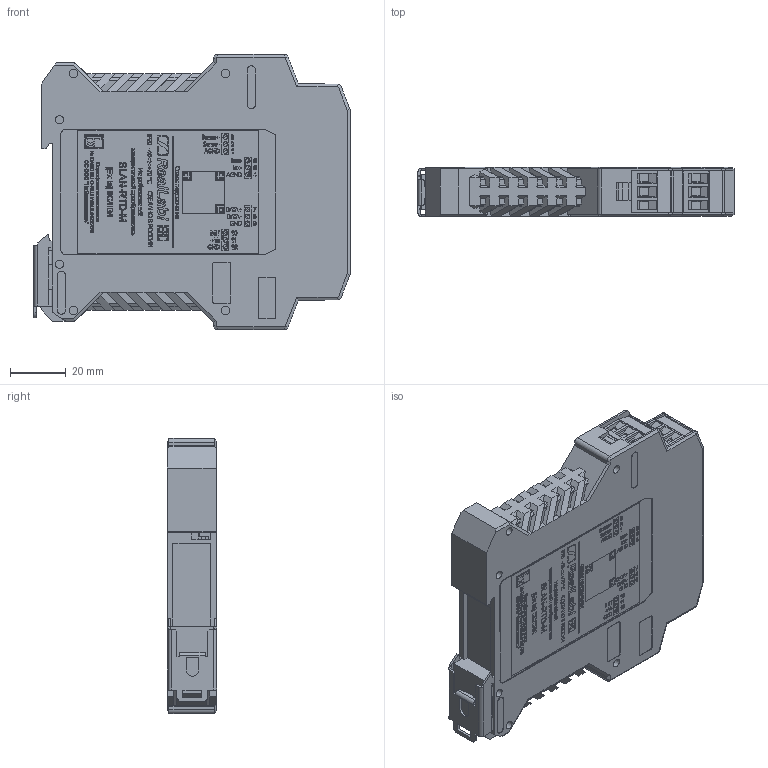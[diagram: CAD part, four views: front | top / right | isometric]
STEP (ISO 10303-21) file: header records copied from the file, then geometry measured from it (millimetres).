
FILE_DESCRIPTION(('STEP AP214'), '1');
FILE_NAME('SLAN-I-4-20-H.a3d', '', ('UNSPECIFIED'), ('UNSPECIFIED'), 'C3D Converter', 'C3D Toolkit', '');
FILE_SCHEMA(('AUTOMOTIVE_DESIGN { 1 0 10303 214 3 1 1}'));
Length unit declared in the file: millimetre
Products named in the file (1): SLAN-RTD-M
Bounding box: 113.65 x 17.75 x 99 mm (x, y, z)
Volume: 66694.6 mm3; surface area: 73858.9 mm2
Topology: 1 solids, 51 shells, 7878 faces, 21643 edges, 14332 vertices
Faces by surface type: plane 4385, extrusion 3061, cylinder 408, cone 24
Full cylindrical faces by diameter (mm): 1.4 x12, 1.8 x2, 3 x16, 3.783 x12, 4 x12
Entity records: 326038 total; most frequent: CARTESIAN_POINT 74277, ORIENTED_EDGE 43178, DIRECTION 28948, EDGE_CURVE 21589, VECTOR 17456, LINE 14395, VERTEX_POINT 14332, B_SPLINE_CURVE_WITH_KNOTS 9207
